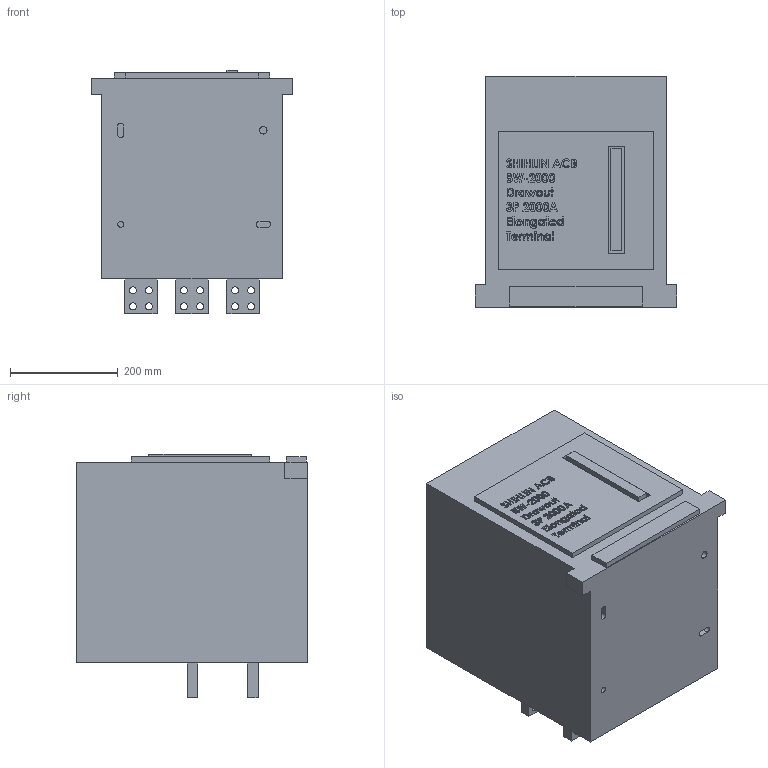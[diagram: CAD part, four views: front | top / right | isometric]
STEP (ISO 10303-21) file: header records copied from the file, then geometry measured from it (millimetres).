
FILE_DESCRIPTION (( 'STEP AP203' ), '1' );
FILE_NAME ('BW-2000-Drawout-3P-2000A-Elongated Terminal.STEP', '2016-11-03T01:05:52', ( '' ), ( '' ), 'SwSTEP 2.0', 'SolidWorks 2015', '' );
FILE_SCHEMA (( 'CONFIG_CONTROL_DESIGN' ));
Length unit declared in the file: millimetre
Products named in the file (1): BW-2000-Drawout-3P-2000A-Elongated Terminal
Bounding box: 375 x 430 x 453.5 mm (x, y, z)
Volume: 55039827.3 mm3; surface area: 1001559.8 mm2
Topology: 1 solids, 1 shells, 743 faces, 1965 edges, 1310 vertices
Faces by surface type: plane 429, bspline 257, cylinder 57
Entity records: 37028 total; most frequent: CARTESIAN_POINT 20060, ORIENTED_EDGE 3930, DIRECTION 2539, EDGE_CURVE 1965, VECTOR 1337, LINE 1337, VERTEX_POINT 1310, EDGE_LOOP 877
